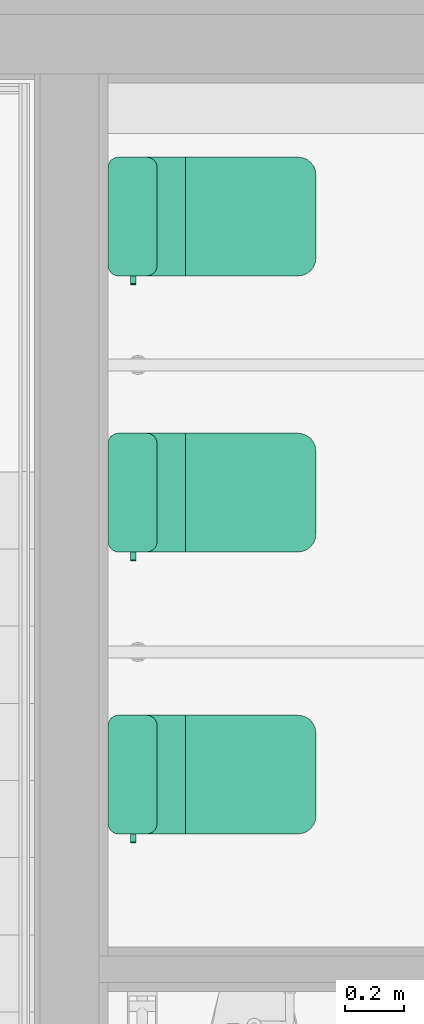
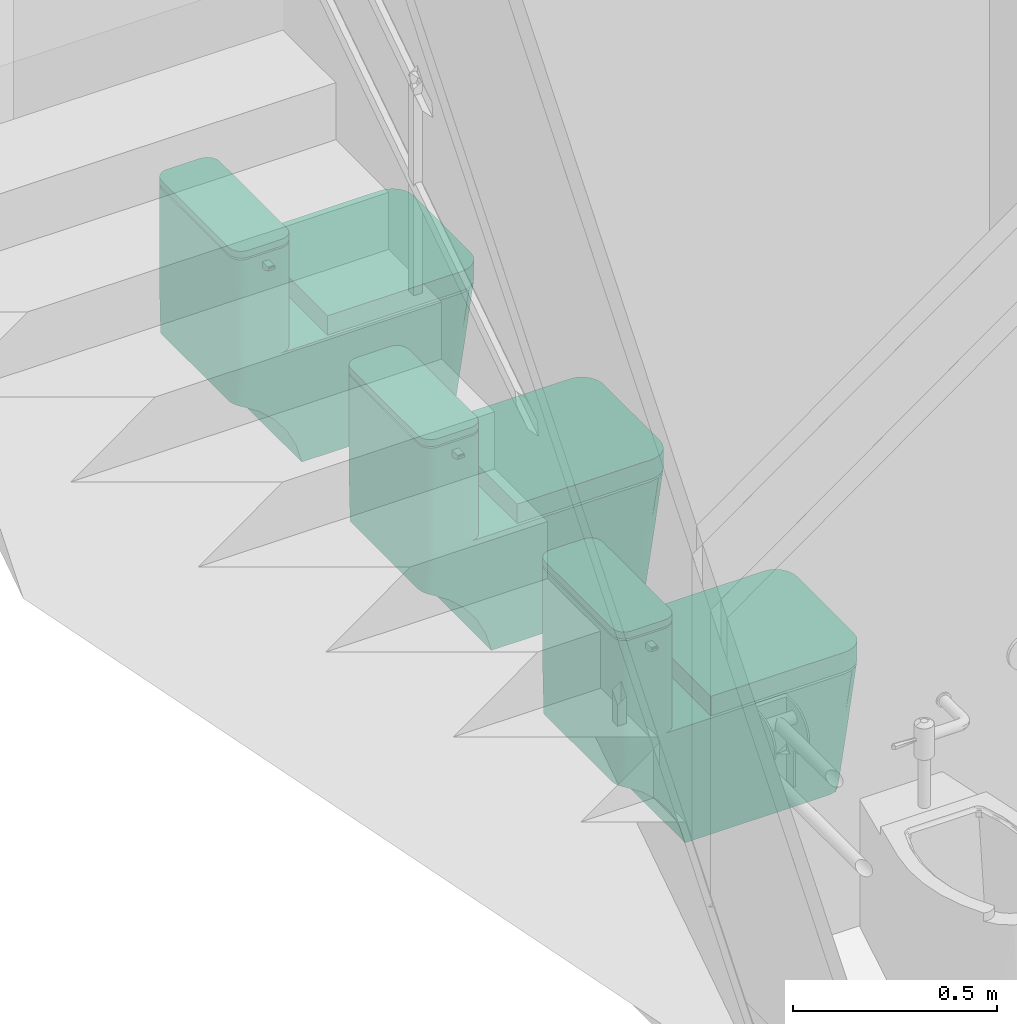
# One storey, part 74 of 81: 3 flow terminals.
"""IFC2X3 building model written with IfcOpenShell, lengths in millimetres."""

import ifcopenshell
import ifcopenshell.guid

model = None  # the IFC model being written
_history = None  # IfcOwnerHistory: only IFC2X3 demands one
_inside = {}  # id of a spatial element -> (the spatial element, [elements in it])
_under = {}  # id of a project, library or spatial element -> (it, [spatial elements below it])
_declared = {}  # id of a project -> (the project, [libraries it declares])
_typed = {}  # id of a type object -> (the type object, [elements of that type])
_made_of = {}  # id of a material, layer set ... -> (it, [elements and type objects made of it])


def new_model(schema):
    """Start an empty IFC model of exactly this schema.

    Asked for "IFC4X3", IfcOpenShell would pick the latest addendum, in which some entities
    have other attributes; the version numbers below select the first issue.
    IFC2X3 requires an IfcOwnerHistory on every rooted entity: one is made here for all.
    """
    global model, _history
    if schema == "IFC4X3":
        model = ifcopenshell.file(schema_version=(4, 3, 0, 0))
    else:
        model = ifcopenshell.file(schema=schema)
    _inside.clear()
    _under.clear()
    _declared.clear()
    _typed.clear()
    _made_of.clear()
    _history = None
    if model.schema == "IFC2X3":
        org = make("IfcOrganization", Name="unknown")
        user = make(
            "IfcPersonAndOrganization",
            ThePerson=make("IfcPerson", FamilyName="unknown"),
            TheOrganization=org,
        )
        app = make(
            "IfcApplication",
            ApplicationDeveloper=org,
            Version="unknown",
            ApplicationFullName="unknown",
            ApplicationIdentifier="unknown",
        )
        _history = make(
            "IfcOwnerHistory",
            OwningUser=user,
            OwningApplication=app,
            ChangeAction="ADDED",
            CreationDate=0,
        )
    return model


def make(cls, **values):
    """One entity of the class cls with the attributes given. An attribute that is None is left unset."""
    return model.create_entity(
        cls, **{name: value for name, value in values.items() if value is not None}
    )


def entity(cls, *values):
    """Any entity or typed value of the class cls, its attributes in the order of the schema. None: left unset."""
    e = model.create_entity(cls)
    for i, value in enumerate(values):
        if value is not None:
            e[i] = value
    return e


def rooted(cls, **values):
    """An entity with a GlobalId (a new one), such as an element, a storey or a relation."""
    return make(cls, GlobalId=ifcopenshell.guid.new(), OwnerHistory=_history, **values)


def si_unit(unit_type, name, prefix=None):
    """IfcSIUnit, for example si_unit("LENGTHUNIT", "METRE", prefix="MILLI")."""
    return make("IfcSIUnit", UnitType=unit_type, Prefix=prefix, Name=name)


def converted_unit(unit_type, name, factor, base, dimensions=None, offset=None):
    """IfcConversionBasedUnit, such as the inch: factor (a typed value) times the base unit."""
    return make(
        "IfcConversionBasedUnit"
        if offset is None
        else "IfcConversionBasedUnitWithOffset",
        ConversionOffset=offset,
        Dimensions=None
        if dimensions is None
        else entity("IfcDimensionalExponents", *dimensions),
        UnitType=unit_type,
        Name=name,
        ConversionFactor=make(
            "IfcMeasureWithUnit", ValueComponent=factor, UnitComponent=base
        ),
    )


def derived_unit(unit_type, elements):
    """IfcDerivedUnit: a product of units, each with its exponent."""
    return make(
        "IfcDerivedUnit",
        Elements=[
            make("IfcDerivedUnitElement", Unit=unit, Exponent=power)
            for unit, power in elements
        ],
        UnitType=unit_type,
    )


def assignment(units):
    """IfcUnitAssignment: the units of a project."""
    return None if units is None else make("IfcUnitAssignment", Units=units)


def point(xyz):
    """IfcCartesianPoint."""
    return None if xyz is None else make("IfcCartesianPoint", Coordinates=xyz)


def direction(xyz):
    """IfcDirection."""
    return None if xyz is None else make("IfcDirection", DirectionRatios=xyz)


def frame(location, z_axis=None, x_axis=None):
    """IfcAxis2Placement3D, a coordinate frame: its origin and axes. An axis left out is left unset."""
    return make(
        "IfcAxis2Placement3D",
        Location=point(location),
        Axis=direction(z_axis),
        RefDirection=direction(x_axis),
    )


def origin():
    """The frame at (0, 0, 0) with its axes left unset."""
    return frame((0.0, 0.0, 0.0))


def place(relative_to, where):
    """IfcLocalPlacement: puts the frame where relative to a parent placement (None: the world)."""
    return make(
        "IfcLocalPlacement", PlacementRelTo=relative_to, RelativePlacement=where
    )


def context(
    kind, dimensions, precision=None, world=None, true_north=None, identifier=None
):
    """IfcGeometricRepresentationContext, for example the 3D "Model" context."""
    return make(
        "IfcGeometricRepresentationContext",
        ContextIdentifier=identifier,
        ContextType=kind,
        CoordinateSpaceDimension=dimensions,
        Precision=precision,
        WorldCoordinateSystem=world,
        TrueNorth=true_north,
    )


def subcontext(parent, identifier, kind, view, scale=None):
    """IfcGeometricRepresentationSubContext, for example "Body" below "Model"."""
    return make(
        "IfcGeometricRepresentationSubContext",
        ContextIdentifier=identifier,
        ContextType=kind,
        ParentContext=parent,
        TargetScale=scale,
        TargetView=view,
    )


def project(units=None, contexts=None):
    """IfcProject with its units and contexts."""
    return rooted(
        "IfcProject",
        Name="project",
        RepresentationContexts=contexts,
        UnitsInContext=assignment(units),
    )


def spatial(cls, under=None, at=None, **own):
    """A site, building, storey or space (cls), placed at a placement, below another one or the project."""
    s = rooted(cls, ObjectPlacement=at, **own)
    if under is not None:
        _under.setdefault(under.id(), (under, []))[1].append(s)
    return s


def faces_of(points, faces, orient=None, outer=None):
    """IfcFace entities. A face is a list of loops; a loop is a list of indices into points, from 0.

    orient and outer hold one flag for each loop. By default every Orientation is true, the
    first loop of a face is its IfcFaceOuterBound and the others are IfcFaceBound.
    """
    made = []
    for i, loops in enumerate(faces):
        bounds = []
        for j, loop in enumerate(loops):
            is_outer = j == 0 if outer is None else outer[i][j]
            bounds.append(
                make(
                    "IfcFaceOuterBound" if is_outer else "IfcFaceBound",
                    Bound=make("IfcPolyLoop", Polygon=[points[k] for k in loop]),
                    Orientation=True if orient is None else orient[i][j],
                )
            )
        made.append(make("IfcFace", Bounds=bounds))
    return made


def faceted_brep(points, faces, orient=None, outer=None, voids=None):
    """IfcFacetedBrep: a solid bounded by flat faces; with voids (closed shells), ...WithVoids."""
    shared = [point(p) for p in points]
    hull = make("IfcClosedShell", CfsFaces=faces_of(shared, faces, orient, outer))
    if voids is None:
        return make("IfcFacetedBrep", Outer=hull)
    return make(
        "IfcFacetedBrepWithVoids",
        Outer=hull,
        Voids=[
            make(cls, CfsFaces=faces_of(shared, fs, o, b)) for cls, fs, o, b in voids
        ],
    )


def shape(context_of_items, identifier, shape_type, items):
    """IfcShapeRepresentation: the items that make up one representation, for example the "Body"."""
    return make(
        "IfcShapeRepresentation",
        ContextOfItems=context_of_items,
        RepresentationIdentifier=identifier,
        RepresentationType=shape_type,
        Items=items,
    )


def source(mapping_origin, context_of_items, identifier, shape_type, items):
    """IfcRepresentationMap: a shape defined once, which mapped items show again and again."""
    return make(
        "IfcRepresentationMap",
        MappingOrigin=mapping_origin,
        MappedRepresentation=shape(context_of_items, identifier, shape_type, items),
    )


def transform(
    local_origin,
    x_axis=None,
    y_axis=None,
    z_axis=None,
    scale=None,
    scale2=None,
    scale3=None,
    uniform=True,
):
    """IfcCartesianTransformationOperator3D, or its non-uniform kind. x_axis, y_axis, z_axis: its Axis1, 2, 3."""
    if uniform:
        return make(
            "IfcCartesianTransformationOperator3D",
            Axis1=direction(x_axis),
            Axis2=direction(y_axis),
            LocalOrigin=point(local_origin),
            Scale=scale,
            Axis3=direction(z_axis),
        )
    return make(
        "IfcCartesianTransformationOperator3DnonUniform",
        Axis1=direction(x_axis),
        Axis2=direction(y_axis),
        LocalOrigin=point(local_origin),
        Scale=scale,
        Axis3=direction(z_axis),
        Scale2=scale2,
        Scale3=scale3,
    )


def mapped(mapping_source, mapping_target):
    """IfcMappedItem: shows the shape of a source again, moved by a transform."""
    return make(
        "IfcMappedItem", MappingSource=mapping_source, MappingTarget=mapping_target
    )


def material(Name=None, Category=None):
    """IfcMaterial."""
    return make("IfcMaterial", Name=Name, Category=Category)


def material_list(materials):
    """IfcMaterialList."""
    return make("IfcMaterialList", Materials=materials)


def made_of(thing, what):
    """Note that an element or type object is made of a material, layer set ...; save() writes the relation."""
    if what is not None:
        _made_of.setdefault(what.id(), (what, []))[1].append(thing)
    return thing


def type_object(cls, material=None, **own):
    """A type object (cls), such as IfcWallType, which elements share."""
    return made_of(rooted(cls, **own), material)


def type_shapes(of_type, sources):
    """Give a type object the sources (RepresentationMaps) that its elements show as mapped items."""
    of_type.RepresentationMaps = sources


def element(
    cls,
    number,
    at=None,
    inside=None,
    cuts=None,
    type_object=None,
    material=None,
    context=None,
    identifier="Body",
    shape_type=None,
    held_by="IfcProductDefinitionShape",
    body=None,
    shapes=None,
    **own,
):
    """One element of the class cls, such as IfcWall. Its Tag is "e" and its number.

    at: its placement. inside: the storey or other place that contains it. cuts: it is an
    opening in that element (IfcRelVoidsElement). A single representation is given by context,
    identifier, shape_type and body (its items); several are given by shapes. held_by: the class
    of the entity that holds the representations. save() writes the other relations.
    """
    e = rooted(cls, Tag="e%d" % number, ObjectPlacement=at, **own)
    if body is not None:
        shapes = [shape(context, identifier, shape_type, body)]
    if shapes is not None:
        e.Representation = make(held_by, Representations=shapes)
    if inside is not None:
        _inside.setdefault(inside.id(), (inside, []))[1].append(e)
    if cuts is not None:
        rooted(
            "IfcRelVoidsElement", RelatingBuildingElement=cuts, RelatedOpeningElement=e
        )
    if type_object is not None:
        _typed.setdefault(type_object.id(), (type_object, []))[1].append(e)
    return made_of(e, material)


def aggregate(whole, parts):
    """IfcRelAggregates: a whole, such as a stair, and the parts it consists of."""
    return rooted("IfcRelAggregates", RelatingObject=whole, RelatedObjects=parts)


def save(model, path):
    """Write the relations noted so far, then the file.

    IfcRelAggregates (storeys below a building ...), IfcRelContainedInSpatialStructure (elements
    in a storey), IfcRelDefinesByType, IfcRelAssociatesMaterial and IfcRelDeclares: one each for
    every whole, place, type object, material and project.
    """
    for whole, parts in _under.values():
        aggregate(whole, parts)
    for where, things in _inside.values():
        rooted(
            "IfcRelContainedInSpatialStructure",
            RelatedElements=things,
            RelatingStructure=where,
        )
    for kind, things in _typed.values():
        rooted("IfcRelDefinesByType", RelatedObjects=things, RelatingType=kind)
    for what, things in _made_of.values():
        rooted("IfcRelAssociatesMaterial", RelatedObjects=things, RelatingMaterial=what)
    for by, libraries in _declared.values():
        rooted("IfcRelDeclares", RelatingContext=by, RelatedDefinitions=libraries)
    model.write(path)


model = new_model("IFC2X3")

# Units and contexts
model_context = context("Model", 3, precision=0.01, world=origin(), true_north=direction((6.123031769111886e-17, 1.0)))
body_context = subcontext(model_context, "Body", "Model", "MODEL_VIEW")
ifc_project = project(units=[si_unit("LENGTHUNIT", "METRE", prefix="MILLI"), si_unit("AREAUNIT", "SQUARE_METRE"), si_unit("VOLUMEUNIT", "CUBIC_METRE"), converted_unit("PLANEANGLEUNIT", "DEGREE", entity("IfcRatioMeasure", 0.017453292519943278), si_unit("PLANEANGLEUNIT", "RADIAN"), dimensions=[0, 0, 0, 0, 0, 0, 0]), si_unit("MASSUNIT", "GRAM", prefix="KILO"), derived_unit("MASSDENSITYUNIT", [(si_unit("MASSUNIT", "GRAM", prefix="KILO"), 1), (si_unit("LENGTHUNIT", "METRE"), -3)]), derived_unit("MOMENTOFINERTIAUNIT", [(si_unit("LENGTHUNIT", "METRE"), 4)]), si_unit("TIMEUNIT", "SECOND"), si_unit("FREQUENCYUNIT", "HERTZ"), si_unit("THERMODYNAMICTEMPERATUREUNIT", "DEGREE_CELSIUS"), derived_unit("THERMALTRANSMITTANCEUNIT", [(si_unit("MASSUNIT", "GRAM", prefix="KILO"), 1), (si_unit("THERMODYNAMICTEMPERATUREUNIT", "KELVIN"), -1), (si_unit("TIMEUNIT", "SECOND"), -3)]), derived_unit("VOLUMETRICFLOWRATEUNIT", [(si_unit("LENGTHUNIT", "METRE"), 3), (si_unit("TIMEUNIT", "SECOND"), -1)]), derived_unit("MASSFLOWRATEUNIT", [(si_unit("MASSUNIT", "GRAM", prefix="KILO"), 1), (si_unit("TIMEUNIT", "SECOND"), -1)]), derived_unit("ROTATIONALFREQUENCYUNIT", [(si_unit("TIMEUNIT", "SECOND"), -1)]), si_unit("ELECTRICCURRENTUNIT", "AMPERE"), si_unit("ELECTRICVOLTAGEUNIT", "VOLT"), si_unit("POWERUNIT", "WATT"), si_unit("FORCEUNIT", "NEWTON", prefix="KILO"), si_unit("ILLUMINANCEUNIT", "LUX"), si_unit("LUMINOUSFLUXUNIT", "LUMEN"), si_unit("LUMINOUSINTENSITYUNIT", "CANDELA"), derived_unit("USERDEFINED", [(si_unit("MASSUNIT", "GRAM", prefix="KILO"), -1), (si_unit("LENGTHUNIT", "METRE"), -2), (si_unit("TIMEUNIT", "SECOND"), 3), (si_unit("LUMINOUSFLUXUNIT", "LUMEN"), 1)]), derived_unit("SOUNDPOWERUNIT", [(si_unit("MASSUNIT", "GRAM", prefix="KILO"), 1), (si_unit("LENGTHUNIT", "METRE"), 2), (si_unit("TIMEUNIT", "SECOND"), -3)]), derived_unit("SOUNDPRESSUREUNIT", [(si_unit("MASSUNIT", "GRAM", prefix="KILO"), 1), (si_unit("LENGTHUNIT", "METRE"), -1), (si_unit("TIMEUNIT", "SECOND"), -2)]), derived_unit("LINEARVELOCITYUNIT", [(si_unit("LENGTHUNIT", "METRE"), 1), (si_unit("TIMEUNIT", "SECOND"), -1)]), si_unit("PRESSUREUNIT", "PASCAL"), derived_unit("USERDEFINED", [(si_unit("LENGTHUNIT", "METRE"), -2), (si_unit("MASSUNIT", "GRAM", prefix="KILO"), 1), (si_unit("TIMEUNIT", "SECOND"), -2)]), derived_unit("LINEARFORCEUNIT", [(si_unit("MASSUNIT", "GRAM", prefix="KILO"), 1), (si_unit("LENGTHUNIT", "METRE"), 1), (si_unit("TIMEUNIT", "SECOND"), -2), (si_unit("LENGTHUNIT", "METRE"), -1)]), derived_unit("PLANARFORCEUNIT", [(si_unit("MASSUNIT", "GRAM", prefix="KILO"), 1), (si_unit("LENGTHUNIT", "METRE"), 1), (si_unit("TIMEUNIT", "SECOND"), -2), (si_unit("LENGTHUNIT", "METRE"), -2)])], contexts=[model_context])

# Site, building, storey, space
site_placement = place(None, frame((-14167.972527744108, -657.2125860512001, 0.0)))
site = spatial("IfcSite", under=ifc_project, at=site_placement, Name="Default", CompositionType="ELEMENT")
building_placement = place(site_placement, origin())
building = spatial("IfcBuilding", under=site, at=building_placement, Name="Sample Building", CompositionType="ELEMENT")
storey_placement = place(building_placement, frame((0.0, 0.0, 13400.0)))
storey = spatial("IfcBuildingStorey", under=building, at=storey_placement, Name="지상 4층", CompositionType="ELEMENT", Elevation=13400.00000000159)
space_placement = place(storey_placement, origin())
space = spatial("IfcSpace", under=storey, at=space_placement, Name="222", CompositionType="ELEMENT", InteriorOrExteriorSpace="INTERNAL")

# Flow terminals
ifc_material_1 = material(Name="KBIMS-스테인리스 스틸_도금")
ifc_material_2 = material(Name="KBIMS-도기")
ifc_material_list_1 = material_list([ifc_material_1, ifc_material_2])
ifc_material_list_2 = material_list([ifc_material_1, ifc_material_2, ifc_material_2])
distribution_element_type = type_object("IfcDistributionElementType", Name="PF127-서양식 탱크일체형:PF127-서양식 탱크일체형", material=ifc_material_list_2)
shared_shape = source(origin(), body_context, "Body", "Brep", [
    faceted_brep([(-200.0, -93.78427766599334, 671.547634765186), (-226.3198216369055, -93.78427766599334, 671.5476347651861), (-228.9221007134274, -93.78427766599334, 670.469735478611), (-230.0, -93.78427766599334, 667.8674564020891), (-230.0, -93.78427766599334, 663.5153317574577), (-229.51628854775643, -93.78427766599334, 661.8557929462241), (-228.21666089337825, -93.78427766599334, 660.71605008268), (-215.9758797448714, -93.78427766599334, 655.0080800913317), (-211.766557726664, -93.78427766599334, 653.5792078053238), (-207.34774888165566, -93.78427766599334, 653.095269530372), (-200.0, -93.78427766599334, 653.095269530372), (-230.0, -75.66503821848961, 663.5153317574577), (-230.0, -75.66503821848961, 667.8674564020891), (-228.9221007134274, -75.66503821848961, 670.469735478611), (-226.31982163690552, -75.66503821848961, 671.5476347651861), (-200.0, -75.66503821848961, 671.547634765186), (-200.0, -75.66503821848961, 653.095269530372), (-207.34774888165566, -75.66503821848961, 653.095269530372), (-211.766557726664, -75.66503821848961, 653.5792078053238), (-215.97587974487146, -75.66503821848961, 655.0080800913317), (-228.21666089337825, -75.66503821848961, 660.71605008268), (-229.51628854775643, -75.66503821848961, 661.8557929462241)], [[[0, 1, 2, 3, 4, 5, 6, 7, 8, 9, 10]], [[11, 12, 13, 14, 15, 16, 17, 18, 19, 20, 21]], [[1, 14, 13, 2]], [[13, 12, 3, 2]], [[4, 3, 12, 11]], [[4, 11, 21, 5]], [[21, 20, 6, 5]], [[7, 6, 20, 19]], [[7, 19, 18, 8]], [[18, 17, 9, 8]], [[10, 9, 17, 16]], [[0, 10, 16, 15]], [[1, 0, 15, 14]]]),
    faceted_brep([(140.0, -700.0, 445.0), (155.52914270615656, -697.9555495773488, 445.0), (170.0, -691.9615242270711, 445.0), (182.42640687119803, -682.4264068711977, 445.0), (191.96152422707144, -670.0, 445.0), (197.9555495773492, -655.5291427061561, 445.0), (200.0, -640.0, 445.0), (200.0, -260.0, 445.0), (-200.0, -260.0, 445.0), (-200.0, -640.0, 445.0), (-197.95554957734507, -655.5291427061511, 445.0), (-191.96152422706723, -670.0, 445.0), (-182.42640687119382, -682.4264068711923, 445.0), (-170.0, -691.9615242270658, 445.0), (-155.52914270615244, -697.9555495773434, 445.0), (-140.0, -700.0, 445.0), (-200.0, -640.0, 386.96747142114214), (-200.0, -260.0, 386.96747142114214), (200.0, -260.0, 386.96747142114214), (200.0, -640.0, 386.96747142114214), (197.9555495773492, -655.5291427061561, 386.96747142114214), (191.96152422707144, -670.0, 386.96747142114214), (182.42640687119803, -682.4264068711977, 386.96747142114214), (170.0, -691.9615242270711, 386.96747142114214), (155.52914270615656, -697.9555495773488, 386.96747142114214), (140.0, -700.0, 386.96747142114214), (-140.0, -700.0, 386.96747142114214), (-155.52914270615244, -697.9555495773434, 386.96747142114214), (-170.0, -691.9615242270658, 386.96747142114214), (-182.42640687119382, -682.4264068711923, 386.96747142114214), (-191.96152422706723, -670.0, 386.96747142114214), (-197.95554957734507, -655.5291427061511, 386.96747142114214)], [[[0, 1, 2, 3, 4, 5, 6, 7, 8, 9, 10, 11, 12, 13, 14, 15]], [[16, 17, 18, 19, 20, 21, 22, 23, 24, 25, 26, 27, 28, 29, 30, 31]], [[1, 24, 23, 2]], [[2, 23, 22, 3]], [[25, 24, 1, 0]], [[4, 21, 20, 5]], [[5, 20, 19, 6]], [[3, 22, 21, 4]], [[7, 6, 19, 18]], [[8, 7, 18, 17]], [[9, 8, 17, 16]], [[10, 31, 30, 11]], [[11, 30, 29, 12]], [[9, 16, 31, 10]], [[13, 28, 27, 14]], [[14, 27, 26, 15]], [[12, 29, 28, 13]], [[0, 15, 26, 25]]]),
    faceted_brep([(165.0, 0.0, 694.4321747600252), (165.0, 0.0, 380.0), (164.13685378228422, 0.0, 314.40088745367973), (163.42105263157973, 0.0, 260.0), (-163.42105263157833, 0.0, 260.0), (-164.1368541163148, 0.0, 314.40091283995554), (-165.0, 0.0, 380.0), (-165.0, 0.0, 694.4321747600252), (-165.0, 0.0, 720.0), (165.0, 0.0, 720.0), (165.0, 0.0, 699.4321747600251), (-165.0, 0.0, 699.4321747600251), (200.0, -35.0, 694.4321747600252), (200.0, -130.0, 694.4321747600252), (200.0, -130.0, 380.0), (200.0, -35.0, 380.0), (200.0, -35.0, 720.0), (200.0, -130.0, 720.0), (200.0, -130.0, 699.4321747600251), (200.0, -35.0, 699.4321747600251), (-198.80740392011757, -139.05866657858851, 694.4321747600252), (-198.80740392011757, -139.0586665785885, 380.0), (-195.31088913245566, -147.5000000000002, 380.0), (-195.31088913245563, -147.50000000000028, 694.4321747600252), (-198.80740392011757, -139.05866657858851, 699.4321747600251), (-195.31088913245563, -147.50000000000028, 699.4321747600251), (-195.3108891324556, -147.50000000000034, 720.0), (-198.80740392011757, -139.05866657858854, 720.0), (-189.74873734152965, -154.74873734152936, 380.0), (-189.74873734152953, -154.74873734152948, 694.4321747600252), (-189.74873734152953, -154.74873734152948, 699.4321747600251), (-189.74873734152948, -154.74873734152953, 720.0), (-200.0, -130.0, 380.0), (-200.0, -130.0, 694.4321747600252), (-200.0, -130.0, 699.4321747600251), (-200.0, -130.0, 720.0), (-182.5000000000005, -160.31088913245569, 694.4321747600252), (-182.50000000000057, -160.31088913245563, 380.0), (-174.05866657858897, -163.80740392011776, 380.0), (-174.05866657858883, -163.8074039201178, 694.4321747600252), (-174.05866657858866, -163.80740392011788, 720.0), (-182.50000000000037, -160.31088913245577, 720.0), (-182.5000000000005, -160.31088913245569, 699.4321747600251), (-174.05866657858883, -163.8074039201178, 699.4321747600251), (-165.0, -165.0, 380.0), (-165.0, -165.0, 694.4321747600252), (-165.0, -165.0, 720.0), (-165.0, -165.0, 699.4321747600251), (165.0, -165.0, 694.4321747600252), (165.0, -165.0, 380.0), (165.0, -165.0, 720.0), (165.0, -165.0, 699.4321747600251), (-200.0, -35.0, 694.4321747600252), (-200.0, -35.0, 380.0), (-200.0, -35.0, 720.0), (-200.0, -35.0, 699.4321747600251), (198.80740392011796, -25.941333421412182, 699.4321747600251), (195.310889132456, -17.500000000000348, 699.4321747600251), (195.31088913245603, -17.500000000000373, 720.0), (198.80740392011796, -25.94133342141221, 720.0), (189.74873734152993, -10.251262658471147, 720.0), (189.74873734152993, -10.251262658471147, 699.4321747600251), (174.05866657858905, -1.1925960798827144, 699.4321747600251), (174.0586665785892, -1.192596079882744, 720.0), (182.50000000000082, -4.68911086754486, 699.4321747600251), (182.50000000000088, -4.68911086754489, 720.0), (174.05866657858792, -163.80740392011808, 694.4321747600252), (174.05866657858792, -163.80740392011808, 380.0), (182.49999999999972, -160.31088913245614, 380.0), (182.49999999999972, -160.31088913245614, 694.4321747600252), (174.05866657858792, -163.80740392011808, 699.4321747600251), (182.49999999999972, -160.31088913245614, 699.4321747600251), (182.5000000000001, -160.31088913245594, 720.0), (174.0586665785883, -163.80740392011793, 720.0), (189.74873734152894, -154.74873734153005, 380.0), (189.74873734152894, -154.74873734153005, 694.4321747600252), (189.74873734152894, -154.74873734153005, 699.4321747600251), (189.74873734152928, -154.74873734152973, 720.0), (195.31088913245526, -147.50000000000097, 694.4321747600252), (195.31088913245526, -147.50000000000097, 380.0), (198.8074039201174, -139.05866657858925, 380.0), (198.8074039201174, -139.05866657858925, 694.4321747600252), (195.31088913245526, -147.50000000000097, 699.4321747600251), (198.8074039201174, -139.05866657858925, 699.4321747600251), (198.80740392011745, -139.0586665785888, 720.0), (195.3108891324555, -147.50000000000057, 720.0), (-174.0586665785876, -1.1925960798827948, 720.0), (-174.0586665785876, -1.1925960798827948, 699.4321747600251), (-182.49999999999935, -4.689110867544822, 720.0), (-182.49999999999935, -4.689110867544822, 699.4321747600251), (-189.7487373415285, -10.251262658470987, 720.0), (-189.7487373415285, -10.251262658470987, 699.4321747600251), (-198.8074039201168, -25.941333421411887, 720.0), (-195.31088913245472, -17.50000000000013, 720.0), (-195.31088913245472, -17.50000000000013, 699.4321747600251), (-198.8074039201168, -25.941333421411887, 699.4321747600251), (-174.0586665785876, -1.192596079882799, 694.4321747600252), (-171.07672145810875, -0.5315585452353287, 380.0), (-176.96898132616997, -2.1101309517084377, 380.0), (-182.49999999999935, -4.689110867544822, 694.4321747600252), (-182.49783433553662, -4.687860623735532, 380.0), (-187.49533036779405, -8.18656844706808, 380.0), (-189.7487373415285, -10.251262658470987, 694.4321747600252), (-195.31088913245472, -17.50000000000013, 694.4321747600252), (-195.3094689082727, -17.4975403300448, 380.0), (-197.88846700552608, -23.02716666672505, 380.0), (-198.8074039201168, -25.941333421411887, 694.4321747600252), (-199.4680424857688, -28.921015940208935, 380.0), (-191.8095995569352, -12.500102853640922, 380.0), (198.80740392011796, -25.941333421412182, 694.4321747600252), (199.46810048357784, -28.92134479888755, 380.0), (197.88863680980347, -23.02763311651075, 380.0), (195.310889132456, -17.500000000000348, 694.4321747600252), (195.3097905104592, -17.498097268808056, 380.0), (191.81007551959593, -12.500669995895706, 380.0), (189.74873734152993, -10.251262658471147, 694.4321747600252), (182.50000000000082, -4.68911086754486, 694.4321747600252), (182.49858765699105, -4.6882954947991, 380.0), (176.9698186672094, -2.110435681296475, 380.0), (171.0775985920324, -0.5317131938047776, 380.0), (174.05866657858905, -1.1925960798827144, 694.4321747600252), (187.49595914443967, -8.187095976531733, 380.0), (160.0, -210.0, 0.0), (160.0, -620.0, 0.0), (156.6733983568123, -632.4150463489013, 0.0), (154.64101615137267, -640.0, 0.0), (147.3205080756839, -647.3205080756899, 0.0), (140.0, -654.6410161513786, 0.0), (132.41504577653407, -656.673398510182, 0.0), (120.0, -660.0, 0.0), (-120.0, -660.0, 0.0), (-132.4150463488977, -656.6733983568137, 0.0), (-140.0, -654.6410161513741, 0.0), (-147.32050807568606, -647.3205080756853, 0.0), (-154.64101615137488, -640.0, 0.0), (-156.67339851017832, -632.4150457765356, 0.0), (-160.0, -620.0, 0.0), (-160.0, -210.0, 0.0), (-200.0, -640.0, 380.0), (-197.71638597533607, -651.4805029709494, 380.0), (-195.43277195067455, -662.961005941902, 380.0), (-188.92958941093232, -672.6937064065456, 380.0), (-182.42640687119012, -682.4264068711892, 380.0), (-172.69370640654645, -688.9295894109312, 380.0), (-162.96100594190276, -695.4327719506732, 380.0), (-151.48050297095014, -697.7163859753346, 380.0), (-140.0, -700.0, 380.0), (140.0, -700.0, 380.0), (151.4805029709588, -697.7163859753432, 380.0), (162.9610059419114, -695.4327719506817, 380.0), (172.69370640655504, -688.9295894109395, 380.0), (182.42640687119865, -682.4264068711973, 380.0), (188.9295894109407, -672.6937064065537, 380.0), (195.4327719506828, -662.96100594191, 380.0), (197.7163859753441, -651.4805029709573, 380.0), (200.0, -640.0, 380.0), (181.88767422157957, -630.9438371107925, 207.93290510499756), (169.05616288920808, -624.5280814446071, 86.03354744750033), (166.41215116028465, -190.4623972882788, 60.91543602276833), (172.39104658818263, -161.03070825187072, 117.71494258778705), (177.76891724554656, -122.53079215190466, 168.80471383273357), (182.39485897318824, -76.04296457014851, 212.75116024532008), (186.13906689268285, -22.871683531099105, 248.32113548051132), (193.0948286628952, -28.957975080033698, 314.4008722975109), (184.4509041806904, -13.399793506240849, 253.3937042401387), (192.48236559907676, -21.712362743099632, 318.068486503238), (185.85897664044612, -18.078391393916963, 250.93098822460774), (169.4535256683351, -0.47508644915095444, 318.71364296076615), (176.81269594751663, -2.7853559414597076, 322.8232335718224), (184.85554366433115, -8.564241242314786, 317.5126549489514), (188.64536552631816, -13.805323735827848, 311.79954638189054), (181.93237214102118, -9.070973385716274, 255.5993773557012), (168.85282113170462, -0.6257823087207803, 259.7058617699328), (178.3784036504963, -5.339995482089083, 257.4452533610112), (173.94033185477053, -2.453774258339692, 258.83869964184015), (-193.09483031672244, -28.957976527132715, 314.4008880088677), (-192.48224700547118, -21.712007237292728, 318.06820833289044), (-185.85897664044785, -18.07839139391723, 250.93098822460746), (-169.4535400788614, -0.47508841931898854, 318.7138102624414), (-188.64533012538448, -13.805305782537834, 311.79916939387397), (-184.4509041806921, -13.399793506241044, 253.39370424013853), (-184.85525539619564, -8.563839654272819, 317.5148648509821), (-178.37840365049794, -5.3399954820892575, 257.44525336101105), (-181.93237214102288, -9.070973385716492, 255.59937735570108), (-186.13906689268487, -22.87168353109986, 248.32113548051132), (-176.81199260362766, -2.7850356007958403, 322.8227486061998), (-173.9403318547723, -2.4537742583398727, 258.8386996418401), (-168.85282113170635, -0.6257823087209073, 259.70586176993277), (-182.39485897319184, -76.04296457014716, 212.75116024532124), (-177.7689172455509, -122.53079215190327, 168.8047138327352), (-172.3910465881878, -161.03070825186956, 117.71494258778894), (-166.4121511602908, -190.46239728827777, 60.9154360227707), (-170.9438402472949, -625.4719201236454, 103.96648234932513), (-181.88767486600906, -630.9438374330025, 207.932911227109), (167.84723921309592, -644.8835703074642, 113.26853664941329), (182.70359618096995, -650.4613144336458, 244.34084888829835), (172.7916320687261, -658.8131569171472, 202.6373284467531), (163.28959461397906, -663.2895949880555, 167.00838556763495), (161.3612464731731, -651.454814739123, 94.73545488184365), (130.94384024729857, -681.8876804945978, 207.93296469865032), (137.1466297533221, -675.5797921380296, 155.949684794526), (142.81243148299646, -686.5857660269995, 259.99216222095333), (174.39327642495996, -671.2588406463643, 273.5041922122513), (151.45063444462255, -661.3663368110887, 94.74858838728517), (144.3377504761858, -669.7672265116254, 125.97246068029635), (152.4807217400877, -683.0768420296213, 253.0686677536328), (158.81315653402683, -672.7916326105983, 202.63733033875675), (125.47192012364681, -670.9438402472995, 103.96648234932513), (169.1268939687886, -634.5961485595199, 96.37357614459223), (-130.94383711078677, -681.8876742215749, 207.93290510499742), (-124.52808144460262, -669.056162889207, 86.03354744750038), (-144.88357030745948, -667.8472392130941, 113.26853664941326), (-150.46131443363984, -682.7035961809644, 244.34084888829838), (-158.8131569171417, -672.7916320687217, 202.6373284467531), (-163.28959498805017, -663.2895946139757, 167.00838556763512), (-151.4548147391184, -661.3612464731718, 94.73545488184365), (-175.57979213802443, -637.1466297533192, 155.94968479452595), (-186.58576602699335, -642.8124314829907, 259.99216222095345), (-171.25884064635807, -674.3932764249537, 273.50419221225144), (-161.36633681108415, -651.4506344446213, 94.74858838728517), (-169.76722651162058, -644.3377504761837, 125.97246068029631), (-172.79163261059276, -658.8131565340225, 202.63733033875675), (-134.5961485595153, -669.1268939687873, 96.37357614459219), (-183.07684202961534, -652.480721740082, 253.06866775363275), (-185.0, -150.0, 699.4321747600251), (-185.0, -15.0, 699.4321747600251), (-185.0, -15.0, 694.4321747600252), (-185.0, -150.0, 694.4321747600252), (185.0, -150.0, 699.4321747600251), (185.0, -150.0, 694.4321747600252), (185.0, -15.0, 699.4321747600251), (185.0, -15.0, 694.4321747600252)], [[[0, 1, 2, 3, 4, 5, 6, 7]], [[8, 9, 10, 11]], [[12, 13, 14, 15]], [[16, 17, 18, 19]], [[20, 21, 22, 23]], [[24, 25, 26, 27]], [[23, 22, 28, 29]], [[25, 30, 31, 26]], [[32, 21, 20, 33]], [[34, 24, 27, 35]], [[36, 37, 38, 39]], [[40, 41, 42, 43]], [[39, 38, 44, 45]], [[46, 40, 43, 47]], [[29, 28, 37, 36]], [[30, 42, 41, 31]], [[48, 45, 44, 49]], [[50, 46, 47, 51]], [[33, 52, 53, 32]], [[35, 54, 55, 34]], [[56, 57, 58, 59]], [[19, 56, 59, 16]], [[60, 58, 57, 61]], [[62, 10, 9, 63]], [[64, 62, 63, 65]], [[61, 64, 65, 60]], [[66, 67, 68, 69]], [[70, 71, 72, 73]], [[69, 68, 74, 75]], [[71, 76, 77, 72]], [[49, 67, 66, 48]], [[51, 70, 73, 50]], [[78, 79, 80, 81]], [[82, 83, 84, 85]], [[81, 80, 14, 13]], [[83, 18, 17, 84]], [[75, 74, 79, 78]], [[76, 82, 85, 77]], [[86, 8, 11, 87]], [[88, 86, 87, 89]], [[90, 88, 89, 91]], [[92, 93, 94, 95]], [[54, 92, 95, 55]], [[91, 94, 93, 90]], [[9, 8, 86, 88, 90, 93, 92, 54, 35, 27, 26, 31, 41, 40, 46, 50, 73, 72, 77, 85, 84, 17, 16, 59, 58, 60, 65, 63]], [[96, 97, 98]], [[99, 98, 100]], [[99, 100, 101]], [[6, 97, 7]], [[7, 97, 96]], [[98, 99, 96]], [[101, 102, 99]], [[103, 104, 105]], [[106, 105, 107]], [[52, 107, 53]], [[102, 108, 103]], [[108, 102, 101]], [[104, 103, 108]], [[105, 106, 103]], [[107, 52, 106]], [[109, 110, 111]], [[112, 111, 113]], [[112, 113, 114]], [[15, 110, 12]], [[12, 110, 109]], [[111, 112, 109]], [[114, 115, 112]], [[116, 117, 118]], [[118, 119, 120]], [[1, 0, 119]], [[115, 121, 116]], [[121, 115, 114]], [[117, 116, 121]], [[118, 120, 116]], [[119, 0, 120]], [[122, 123, 124, 125, 126, 127, 128, 129, 130, 131, 132, 133, 134, 135, 136, 137]], [[21, 32, 138, 139, 140, 141, 142, 143, 144, 145, 146, 147, 148, 149, 150, 151, 152, 153, 154, 155, 14, 80, 79, 74, 68, 67, 49, 44, 38, 37, 28, 22]], [[14, 155, 156, 157, 123, 122, 158, 159, 160, 161, 162, 163, 15]], [[164, 165, 166]], [[1, 119, 167]], [[118, 117, 168]], [[169, 170, 171]], [[121, 169, 168]], [[117, 121, 168]], [[2, 1, 167, 3]], [[170, 114, 113]], [[172, 167, 168]], [[110, 15, 163]], [[173, 174, 168]], [[171, 173, 169]], [[114, 169, 121]], [[111, 165, 170]], [[111, 110, 165]], [[3, 167, 172]], [[165, 163, 166]], [[168, 169, 173]], [[169, 114, 170]], [[172, 168, 174]], [[171, 170, 164]], [[164, 170, 165]], [[168, 167, 118]], [[166, 163, 162]], [[163, 165, 110]], [[167, 119, 118]], [[170, 113, 111]], [[175, 176, 177]], [[98, 97, 178]], [[176, 105, 179]], [[176, 179, 180]], [[108, 181, 179]], [[182, 183, 181]], [[175, 107, 176]], [[6, 5, 4, 178]], [[184, 175, 177]], [[176, 180, 177]], [[182, 185, 186]], [[179, 183, 180]], [[105, 104, 179]], [[101, 181, 108]], [[185, 100, 98]], [[185, 98, 178]], [[185, 178, 187]], [[97, 6, 178]], [[101, 100, 185]], [[181, 101, 185]], [[107, 105, 176]], [[185, 182, 181]], [[185, 187, 186]], [[175, 53, 107]], [[178, 4, 187]], [[181, 183, 179]], [[179, 104, 108]], [[138, 32, 53, 175, 184, 188, 189, 190, 191, 137, 136, 192, 193]], [[194, 195, 196]], [[197, 126, 198]], [[199, 200, 201]], [[156, 154, 195]], [[202, 152, 151]], [[196, 152, 202]], [[127, 203, 204]], [[194, 198, 125]], [[150, 205, 206]], [[203, 206, 204]], [[124, 194, 125]], [[198, 194, 196]], [[200, 199, 207]], [[123, 157, 156, 208]], [[194, 124, 208]], [[206, 197, 202]], [[194, 208, 195]], [[150, 202, 151]], [[156, 195, 208]], [[123, 208, 124]], [[126, 197, 203]], [[197, 198, 196]], [[126, 125, 198]], [[202, 197, 196]], [[197, 206, 203]], [[127, 204, 128]], [[126, 203, 127]], [[206, 205, 204]], [[202, 150, 206]], [[128, 204, 200]], [[195, 152, 196]], [[148, 205, 149]], [[152, 195, 153]], [[205, 148, 201]], [[128, 200, 207]], [[205, 201, 200]], [[129, 128, 207]], [[205, 200, 204]], [[147, 199, 201]], [[154, 156, 155]], [[154, 153, 195]], [[149, 205, 150]], [[148, 147, 201]], [[146, 209, 210, 130, 129, 207, 199, 147]], [[211, 212, 213]], [[214, 133, 215]], [[193, 216, 217]], [[209, 145, 212]], [[218, 143, 142]], [[213, 143, 218]], [[134, 219, 220]], [[211, 215, 132]], [[142, 141, 218]], [[219, 221, 220]], [[131, 211, 132]], [[215, 211, 213]], [[216, 193, 192]], [[130, 210, 209, 222]], [[211, 131, 222]], [[221, 214, 218]], [[211, 222, 212]], [[218, 141, 221]], [[209, 212, 222]], [[130, 222, 131]], [[133, 214, 219]], [[214, 215, 213]], [[133, 132, 215]], [[218, 214, 213]], [[214, 221, 219]], [[134, 220, 135]], [[133, 219, 134]], [[221, 223, 220]], [[141, 223, 221]], [[135, 220, 216]], [[212, 143, 213]], [[223, 141, 140]], [[143, 212, 144]], [[223, 139, 217]], [[135, 216, 192]], [[223, 217, 216]], [[136, 135, 192]], [[223, 216, 220]], [[138, 193, 217]], [[145, 209, 146]], [[145, 144, 212]], [[139, 223, 140]], [[139, 138, 217]], [[186, 187, 4]], [[182, 186, 4]], [[4, 180, 183]], [[182, 4, 183]], [[4, 3, 162, 184]], [[172, 174, 3]], [[173, 3, 174]], [[171, 3, 173]], [[164, 3, 171]], [[164, 166, 3]], [[162, 3, 166]], [[177, 180, 4]], [[184, 162, 161, 188]], [[190, 189, 160, 159]], [[160, 189, 188, 161]], [[191, 190, 159, 158]], [[191, 158, 122, 137]], [[177, 4, 184]], [[224, 225, 226, 227]], [[228, 224, 227, 229]], [[230, 228, 229, 231]], [[225, 230, 231, 226]], [[78, 81, 229]], [[229, 75, 78]], [[81, 13, 229]], [[231, 229, 13]], [[13, 12, 231]], [[12, 109, 231]], [[231, 109, 112]], [[112, 115, 231]], [[115, 116, 231]], [[120, 231, 116]], [[231, 120, 0]], [[231, 0, 226]], [[226, 0, 7]], [[226, 7, 96]], [[96, 99, 226]], [[102, 226, 99]], [[103, 226, 102]], [[226, 103, 106]], [[106, 52, 226]], [[33, 226, 52]], [[33, 227, 226]], [[20, 227, 33]], [[23, 227, 20]], [[29, 227, 23]], [[29, 36, 227]], [[39, 227, 36]], [[227, 39, 45]], [[48, 227, 45]], [[229, 48, 66]], [[48, 229, 227]], [[66, 69, 229]], [[75, 229, 69]], [[57, 56, 230]], [[230, 61, 57]], [[56, 19, 230]], [[228, 230, 19]], [[19, 18, 228]], [[18, 83, 228]], [[228, 83, 82]], [[82, 76, 228]], [[76, 71, 228]], [[70, 228, 71]], [[228, 70, 51]], [[224, 228, 51]], [[51, 47, 224]], [[224, 47, 43]], [[43, 42, 224]], [[30, 224, 42]], [[25, 224, 30]], [[224, 25, 24]], [[24, 34, 224]], [[55, 224, 34]], [[55, 225, 224]], [[95, 225, 55]], [[94, 225, 95]], [[91, 225, 94]], [[91, 89, 225]], [[87, 225, 89]], [[225, 87, 11]], [[10, 225, 11]], [[230, 10, 62]], [[230, 225, 10]], [[62, 64, 230]], [[61, 230, 64]]]),
])
type_shapes(distribution_element_type, [shared_shape])
flow_terminal_1_placement = place(space_placement, frame((33097.96375501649, 27477.212300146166, 0.0), z_axis=(0.0, 0.0, 1.0), x_axis=(0.0, 1.0, 0.0)))
element("IfcFlowTerminal", 1, at=flow_terminal_1_placement, inside=space, type_object=distribution_element_type, material=ifc_material_list_1, Name="PF127-서양식 탱크일체형:PF127-서양식 탱크일체형", ObjectType="PF127-서양식 탱크일체형:PF127-서양식 탱크일체형", context=body_context, shape_type="MappedRepresentation", body=[
    mapped(shared_shape, transform((0.0, 0.0, 0.0), scale=1.0)),
])
ifc_material_list_3 = material_list([ifc_material_1, ifc_material_2])
flow_terminal_2_placement = place(space_placement, frame((33097.96375501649, 26547.21230014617, 0.0), z_axis=(0.0, 0.0, 1.0), x_axis=(0.0, 1.0, 0.0)))
element("IfcFlowTerminal", 2, at=flow_terminal_2_placement, inside=space, type_object=distribution_element_type, material=ifc_material_list_3, Name="PF127-서양식 탱크일체형:PF127-서양식 탱크일체형", ObjectType="PF127-서양식 탱크일체형:PF127-서양식 탱크일체형", context=body_context, shape_type="MappedRepresentation", body=[
    mapped(shared_shape, transform((0.0, 0.0, 0.0), scale=1.0)),
])
ifc_material_list_4 = material_list([ifc_material_1, ifc_material_2])
flow_terminal_3_placement = place(space_placement, frame((33097.96366479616, 25597.212300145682, 0.0), z_axis=(0.0, 0.0, 1.0), x_axis=(0.0, 1.0, 0.0)))
element("IfcFlowTerminal", 3, at=flow_terminal_3_placement, inside=space, type_object=distribution_element_type, material=ifc_material_list_4, Name="PF127-서양식 탱크일체형:PF127-서양식 탱크일체형", ObjectType="PF127-서양식 탱크일체형:PF127-서양식 탱크일체형", context=body_context, shape_type="MappedRepresentation", body=[
    mapped(shared_shape, transform((0.0, 0.0, 0.0), scale=1.0)),
])

save(model, "model.ifc")
